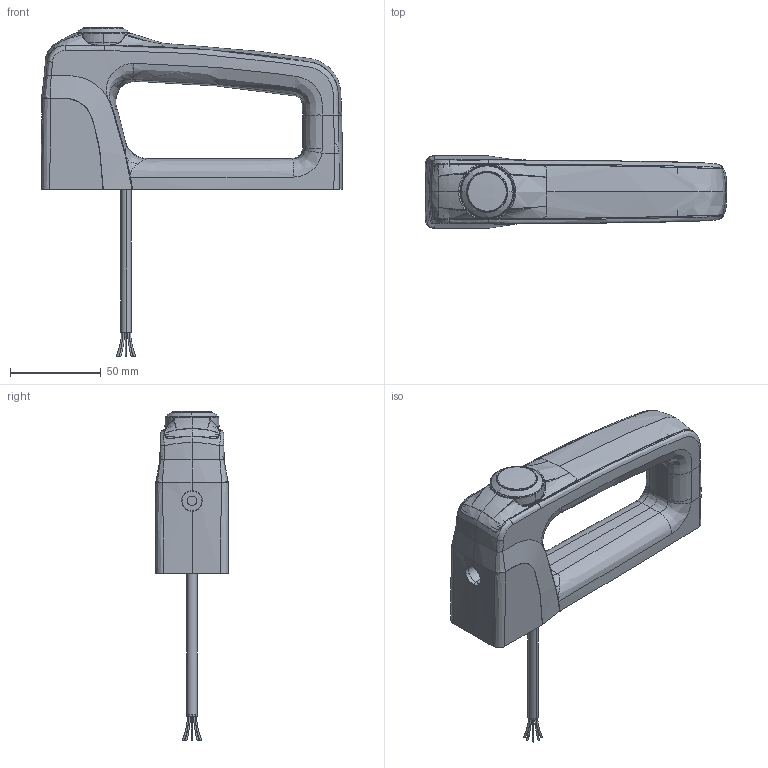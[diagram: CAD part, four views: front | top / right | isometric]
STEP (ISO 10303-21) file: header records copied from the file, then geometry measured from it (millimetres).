
FILE_DESCRIPTION (( 'STEP AP203' ), '1' );
FILE_NAME ('ZF_STEP_AN_Txx101x0-PNx.STEP', '2024-11-15T09:05:00', ( '' ), ( '' ), 'SwSTEP 2.0', 'SolidWorks 2023', '' );
FILE_SCHEMA (( 'CONFIG_CONTROL_DESIGN' ));
Length unit declared in the file: millimetre
Products named in the file (11): Pulsante rasato_3DWeb_27121 bianco; AN T-Porta tag_3dweb_piastrina; AN T-Cavo_3dweb_default; AN T-Tag 9719_3dweb; AN T-Maniglia con foro_3dweb_lente con foro; AN T-Tag 9719_con staffa; ZF_STEP_AN_Txx101x0-PNx; ZF_STEP_VN_NG-AC27121; AN T-Cavo_3web; AN T-Maniglia con foro_3dweb
Assembly tree (10 placements, depth 3):
  ZF_STEP_AN_Txx101x0-PNx
    AN T-Maniglia con foro_3dweb
      AN T-Maniglia con foro_3dweb_lente con foro
    ZF_STEP_VN_NG-AC27121
      Pulsante rasato_3DWeb_27121 bianco
    AN T-Porta tag_3dweb_piastrina
      AN T-Porta tag_3dweb_piastrina
    AN T-Cavo_3web
      AN T-Cavo_3dweb_default
    AN T-Tag 9719_3dweb
      AN T-Tag 9719_con staffa
Bounding box: 166 x 40 x 181.59 mm (x, y, z)
Volume: 248767.9 mm3; surface area: 90509.7 mm2
Topology: 16 solids, 18 shells, 963 faces, 2509 edges, 1607 vertices
Faces by surface type: bspline 371, plane 300, cylinder 219, cone 47, torus 18, sphere 8
Entity records: 63972 total; most frequent: CARTESIAN_POINT 42255, ORIENTED_EDGE 5006, DIRECTION 3205, EDGE_CURVE 2503, VERTEX_POINT 1607, AXIS2_PLACEMENT_3D 1188, B_SPLINE_CURVE_WITH_KNOTS 1066, EDGE_LOOP 1018
